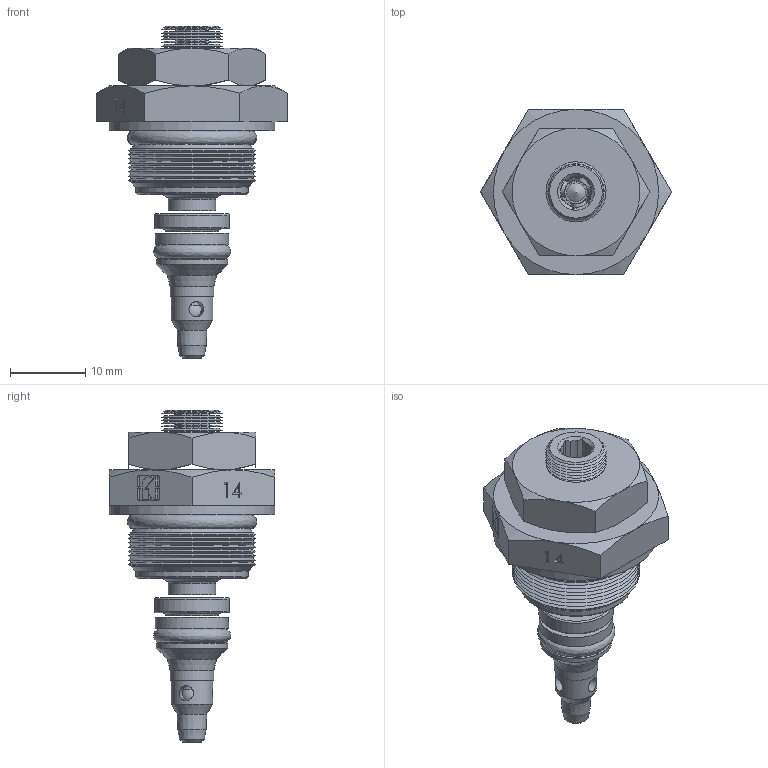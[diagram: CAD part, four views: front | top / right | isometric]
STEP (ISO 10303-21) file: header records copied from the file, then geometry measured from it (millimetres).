
FILE_DESCRIPTION (( 'STEP AP214' ), '1' );
FILE_NAME ('2243-5-14.STEP', '2023-03-08T15:36:58', ( '' ), ( '' ), 'SwSTEP 2.0', 'SolidWorks 2022', '' );
FILE_SCHEMA (( 'AUTOMOTIVE_DESIGN' ));
Length unit declared in the file: millimetre
Products named in the file (1): 2243-5-14
Bounding box: 25.4 x 22 x 44.2 mm (x, y, z)
Surface area: 3625.2 mm2 (no closed solid volume)
Topology: 0 solids, 22 shells, 246 faces, 669 edges, 434 vertices
Faces by surface type: plane 127, cone 56, bspline 36, cylinder 21, torus 5, sphere 1
Full cylindrical faces by diameter (mm): 2 x3, 2.25 x1, 3 x1, 4.1 x1, 5.5 x1, 5.796 x1, 6.3 x1, 9.5 x1, 10 x1, 14.5 x1, 15 x1, 22 x1
Entity records: 12139 total; most frequent: CARTESIAN_POINT 3919, ORIENTED_EDGE 1055, DIRECTION 1014, EDGE_CURVE 581, VERTEX_POINT 413, AXIS2_PLACEMENT_3D 342, EDGE_LOOP 332, LINE 330
